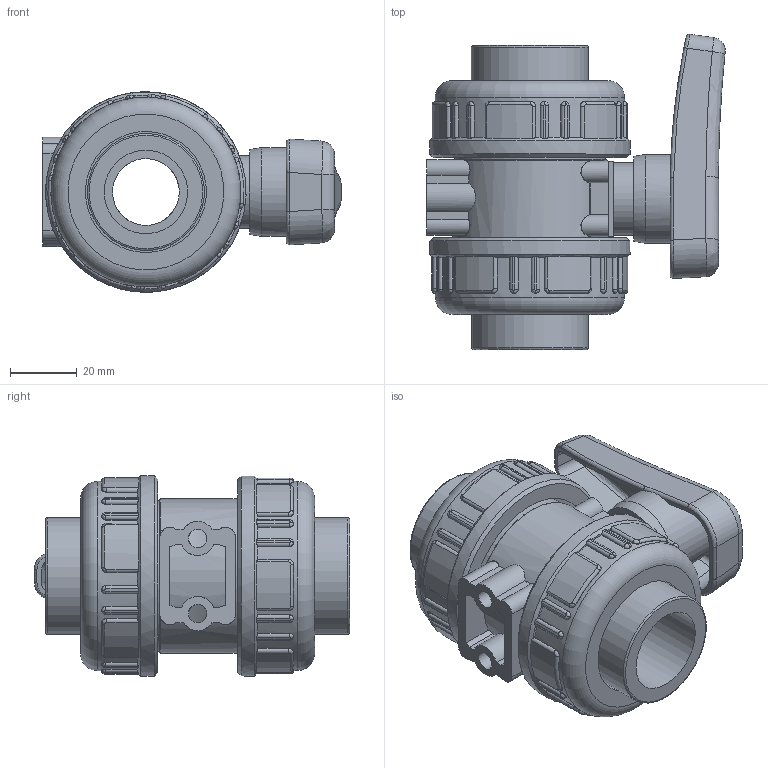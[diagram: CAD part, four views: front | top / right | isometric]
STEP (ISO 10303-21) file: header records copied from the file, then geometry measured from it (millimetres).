
FILE_DESCRIPTION(/* description */ (''),/* implementation_level */ '2;1');
FILE_NAME(/* name */ 'C:\Users\POLYPIPE\Desktop\DATASET INVENTOR\LIBRERIA EFFAST\3D_VALVOLE\3D_VALVOLE A SFERA\3D_BK1\3D_BHPBK1H\3D_BHPBK1H0250.stp',/* time_stamp */ '2018-01-25T16:13:16+01:00',/* author */ ('POLYPIPE'),/* organization */ (''),/* preprocessor_version */ 'ST-DEVELOPER v16.1',/* originating_system */ 'Autodesk Inventor 2016',/* authorisation */ '');
FILE_SCHEMA (('CONFIG_CONTROL_DESIGN'));
Length unit declared in the file: centimetre
Products named in the file (1): 3D_BHPBK1H0250
Bounding box: 89.31 x 94.37 x 59.99 mm (x, y, z)
Volume: 158007.2 mm3; surface area: 57763.8 mm2
Topology: 3 solids, 4 shells, 579 faces, 1491 edges, 939 vertices
Faces by surface type: cylinder 193, plane 189, bspline 172, torus 20, cone 5
Full cylindrical faces by diameter (mm): 2.5 x4, 5.5 x2, 13.9 x1, 20 x2, 20.2 x1, 21.8 x1, 25 x2, 26.6 x1, 35 x2, 36.2 x2, 43.5 x2, 45.15 x2, 46.15 x1, 48.3 x2, 56.7 x2, 60 x2
Entity records: 63073 total; most frequent: CARTESIAN_POINT 49470, ORIENTED_EDGE 2878, DIRECTION 2378, EDGE_CURVE 1437, VERTEX_POINT 925, AXIS2_PLACEMENT_3D 907, EDGE_LOOP 646, STYLED_ITEM 582
